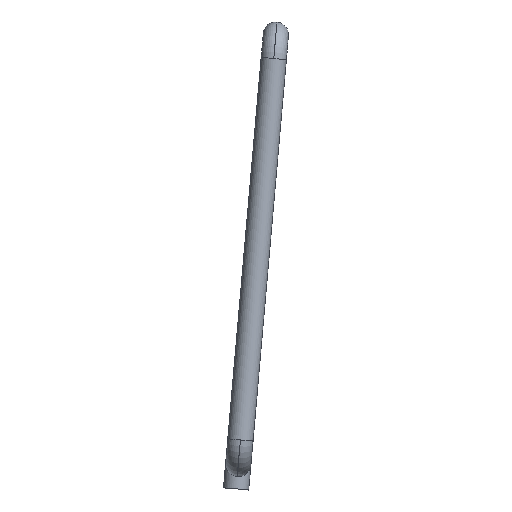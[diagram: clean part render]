
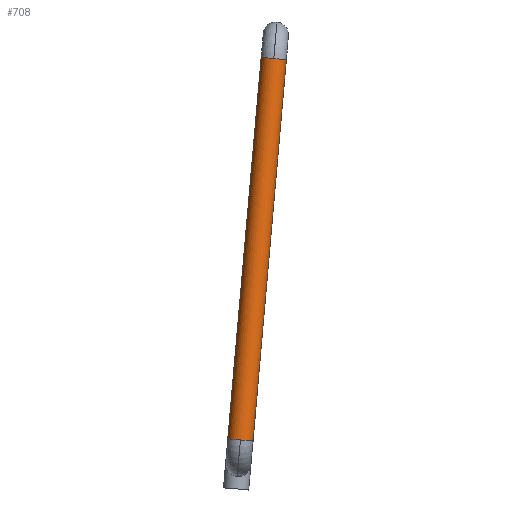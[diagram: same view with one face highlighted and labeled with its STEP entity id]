
A CAD part, left-side view. The second image highlights one B-rep face of the part: STEP entity #708.
In plain terms, the highlighted cylindrical face has radius 30.15 mm (diameter 60.3 mm), a partial arc.
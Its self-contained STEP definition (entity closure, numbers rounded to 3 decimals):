
#63 = EDGE_CURVE ( 'NONE', #113, #1929, #195, .T. ) ;
#113 = VERTEX_POINT ( 'NONE', #1582 ) ;
#116 = DIRECTION ( 'NONE',  ( 0., 0.087, -0.996 ) ) ;
#122 = ORIENTED_EDGE ( 'NONE', *, *, #749, .F. ) ;
#145 = CARTESIAN_POINT ( 'NONE',  ( 1545., -120.141, 3436.225 ) ) ;
#192 = VERTEX_POINT ( 'NONE', #601 ) ;
#195 = CIRCLE ( 'NONE', #692, 30.15 ) ;
#280 = ORIENTED_EDGE ( 'NONE', *, *, #1005, .T. ) ;
#285 = CIRCLE ( 'NONE', #567, 30.15 ) ;
#286 = CARTESIAN_POINT ( 'NONE',  ( 1545., -10.633, 2530.473 ) ) ;
#306 = CYLINDRICAL_SURFACE ( 'NONE', #439, 30.15 ) ;
#386 = DIRECTION ( 'NONE',  ( 0., 0.087, -0.996 ) ) ;
#429 = CIRCLE ( 'NONE', #928, 30.15 ) ;
#439 = AXIS2_PLACEMENT_3D ( 'NONE', #1639, #1131, #1495 ) ;
#463 = ORIENTED_EDGE ( 'NONE', *, *, #2068, .F. ) ;
#567 = AXIS2_PLACEMENT_3D ( 'NONE', #1378, #386, #1092 ) ;
#601 = CARTESIAN_POINT ( 'NONE',  ( 1514.85, -90.106, 3438.853 ) ) ;
#613 = EDGE_CURVE ( 'NONE', #192, #1825, #663, .T. ) ;
#663 = CIRCLE ( 'NONE', #1185, 30.15 ) ;
#680 = LINE ( 'NONE', #1689, #1575 ) ;
#690 = DIRECTION ( 'NONE',  ( 0., 0.087, -0.996 ) ) ;
#692 = AXIS2_PLACEMENT_3D ( 'NONE', #286, #1795, #781 ) ;
#708 = ADVANCED_FACE ( 'NONE', ( #1155 ), #306, .T. ) ;
#729 = CARTESIAN_POINT ( 'NONE',  ( 1545., -10.633, 2530.473 ) ) ;
#749 = EDGE_CURVE ( 'NONE', #1938, #872, #1812, .T. ) ;
#781 = DIRECTION ( 'NONE',  ( 0., -0.996, -0.087 ) ) ;
#822 = DIRECTION ( 'NONE',  ( 0., 0.087, -0.996 ) ) ;
#872 = VERTEX_POINT ( 'NONE', #1066 ) ;
#925 = CARTESIAN_POINT ( 'NONE',  ( 1545., -90.106, 3438.853 ) ) ;
#928 = AXIS2_PLACEMENT_3D ( 'NONE', #729, #1537, #1884 ) ;
#1005 = EDGE_CURVE ( 'NONE', #1825, #1929, #680, .T. ) ;
#1066 = CARTESIAN_POINT ( 'NONE',  ( 1545., -40.668, 2527.845 ) ) ;
#1092 = DIRECTION ( 'NONE',  ( 0., -0.996, -0.087 ) ) ;
#1114 = CARTESIAN_POINT ( 'NONE',  ( 1545., -120.141, 3436.225 ) ) ;
#1131 = DIRECTION ( 'NONE',  ( 0., 0.087, -0.996 ) ) ;
#1155 = FACE_OUTER_BOUND ( 'NONE', #1525, .T. ) ;
#1185 = AXIS2_PLACEMENT_3D ( 'NONE', #925, #116, #1426 ) ;
#1378 = CARTESIAN_POINT ( 'NONE',  ( 1545., -90.106, 3438.853 ) ) ;
#1416 = CARTESIAN_POINT ( 'NONE',  ( 1545., -60.071, 3441.481 ) ) ;
#1426 = DIRECTION ( 'NONE',  ( 0., -0.996, -0.087 ) ) ;
#1489 = EDGE_CURVE ( 'NONE', #1938, #192, #285, .T. ) ;
#1495 = DIRECTION ( 'NONE',  ( 0., 0.996, 0.087 ) ) ;
#1525 = EDGE_LOOP ( 'NONE', ( #122, #1688, #1563, #280, #1680, #463 ) ) ;
#1537 = DIRECTION ( 'NONE',  ( 0., 0.087, -0.996 ) ) ;
#1563 = ORIENTED_EDGE ( 'NONE', *, *, #613, .T. ) ;
#1575 = VECTOR ( 'NONE', #690, 1000. ) ;
#1582 = CARTESIAN_POINT ( 'NONE',  ( 1514.85, -10.633, 2530.473 ) ) ;
#1619 = CARTESIAN_POINT ( 'NONE',  ( 1545., 19.402, 2533.1 ) ) ;
#1639 = CARTESIAN_POINT ( 'NONE',  ( 1545., -90.106, 3438.853 ) ) ;
#1680 = ORIENTED_EDGE ( 'NONE', *, *, #63, .F. ) ;
#1688 = ORIENTED_EDGE ( 'NONE', *, *, #1489, .T. ) ;
#1689 = CARTESIAN_POINT ( 'NONE',  ( 1545., -60.071, 3441.481 ) ) ;
#1795 = DIRECTION ( 'NONE',  ( 0., 0.087, -0.996 ) ) ;
#1812 = LINE ( 'NONE', #145, #1834 ) ;
#1825 = VERTEX_POINT ( 'NONE', #1416 ) ;
#1834 = VECTOR ( 'NONE', #822, 1000. ) ;
#1884 = DIRECTION ( 'NONE',  ( 0., -0.996, -0.087 ) ) ;
#1929 = VERTEX_POINT ( 'NONE', #1619 ) ;
#1938 = VERTEX_POINT ( 'NONE', #1114 ) ;
#2068 = EDGE_CURVE ( 'NONE', #872, #113, #429, .T. ) ;
